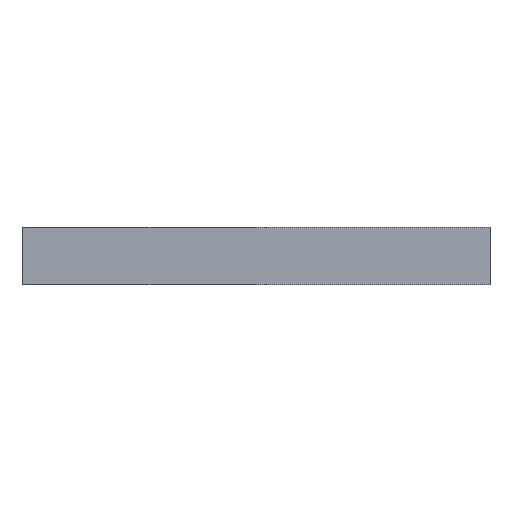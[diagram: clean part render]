
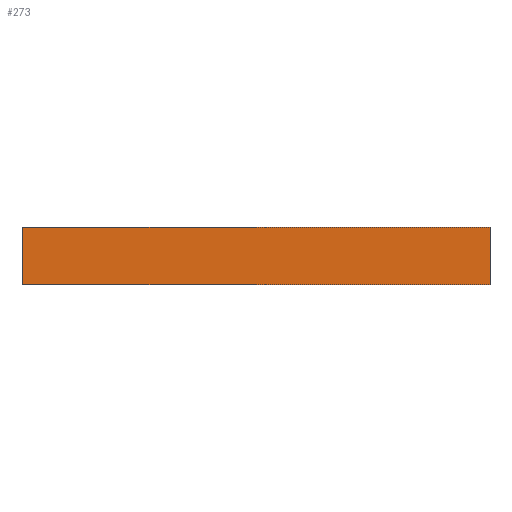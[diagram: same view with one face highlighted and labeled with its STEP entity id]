
A CAD part, front view. The second image highlights one B-rep face of the part: STEP entity #273.
In plain terms, the highlighted planar face has unit normal (0, -1, 0).
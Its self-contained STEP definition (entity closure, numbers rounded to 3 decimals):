
#273=ADVANCED_FACE('',(#519),#3769,.T.);
#519=FACE_OUTER_BOUND('',#777,.T.);
#777=EDGE_LOOP('',(#1936,#1937,#1938,#1939));
#1936=ORIENTED_EDGE('',*,*,#2631,.F.);
#1937=ORIENTED_EDGE('',*,*,#2633,.T.);
#1938=ORIENTED_EDGE('',*,*,#2628,.T.);
#1939=ORIENTED_EDGE('',*,*,#2630,.F.);
#2628=EDGE_CURVE('',#3679,#3678,#3268,.T.);
#2630=EDGE_CURVE('',#3680,#3678,#3270,.T.);
#2631=EDGE_CURVE('',#3681,#3680,#3271,.T.);
#2633=EDGE_CURVE('',#3681,#3679,#3273,.T.);
#3268=B_SPLINE_CURVE_WITH_KNOTS('',1,(#12219,#12220),.UNSPECIFIED.,.F.,
 .F.,(2,2),(0.,48.),.UNSPECIFIED.);
#3270=B_SPLINE_CURVE_WITH_KNOTS('',1,(#12223,#12224),.UNSPECIFIED.,.F.,
 .F.,(2,2),(0.,388.),.UNSPECIFIED.);
#3271=B_SPLINE_CURVE_WITH_KNOTS('',1,(#12225,#12226),.UNSPECIFIED.,.F.,
 .F.,(2,2),(0.,48.),.UNSPECIFIED.);
#3273=B_SPLINE_CURVE_WITH_KNOTS('',1,(#12229,#12230),.UNSPECIFIED.,.F.,
 .F.,(2,2),(0.,388.),.UNSPECIFIED.);
#3678=VERTEX_POINT('',#12073);
#3679=VERTEX_POINT('',#12074);
#3680=VERTEX_POINT('',#12075);
#3681=VERTEX_POINT('',#12076);
#3769=PLANE('',#4373);
#4373=AXIS2_PLACEMENT_3D('',#11888,#4461,$);
#4461=DIRECTION('',(0.,-1.,0.));
#11888=CARTESIAN_POINT('',(235.335,-2076.,-31.335));
#12073=CARTESIAN_POINT('',(-194.,-2076.,-24.));
#12074=CARTESIAN_POINT('',(-194.,-2076.,24.));
#12075=CARTESIAN_POINT('',(194.,-2076.,-24.));
#12076=CARTESIAN_POINT('',(194.,-2076.,24.));
#12219=CARTESIAN_POINT('',(-194.,-2076.,24.));
#12220=CARTESIAN_POINT('',(-194.,-2076.,-24.));
#12223=CARTESIAN_POINT('',(194.,-2076.,-24.));
#12224=CARTESIAN_POINT('',(-194.,-2076.,-24.));
#12225=CARTESIAN_POINT('',(194.,-2076.,24.));
#12226=CARTESIAN_POINT('',(194.,-2076.,-24.));
#12229=CARTESIAN_POINT('',(194.,-2076.,24.));
#12230=CARTESIAN_POINT('',(-194.,-2076.,24.));
